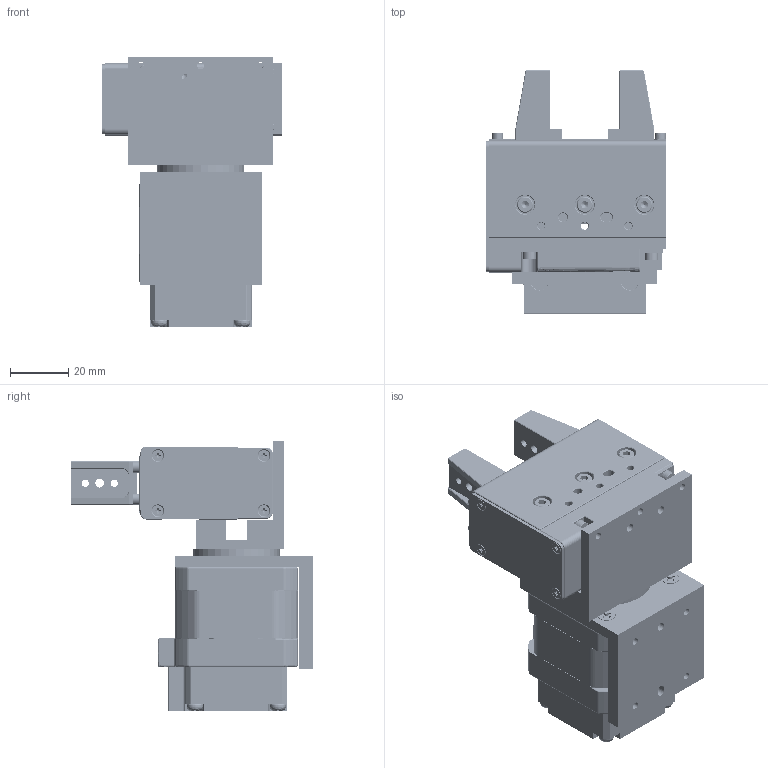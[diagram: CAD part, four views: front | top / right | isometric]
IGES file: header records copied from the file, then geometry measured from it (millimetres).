
Start section: SolidWorks IGES file using analytic representation for surfaces
Global section: file name: C:\Users\KH1\Desktop\3KH05010-00(RGL42T-S0402-14DVD).IGS; native system: SolidWorks 2023; preprocessor: SolidWorks 2023; author: KH1; date: 230810.151636; units: millimetre
Bounding box: 62 x 83.5 x 92.85 mm (x, y, z)
Surface area: 117449.3 mm2 (no closed solid volume)
Topology: 0 solids, 0 shells, 6409 faces, 63615 edges, 63325 vertices
Faces by surface type: bspline 3395, revolution 3014
